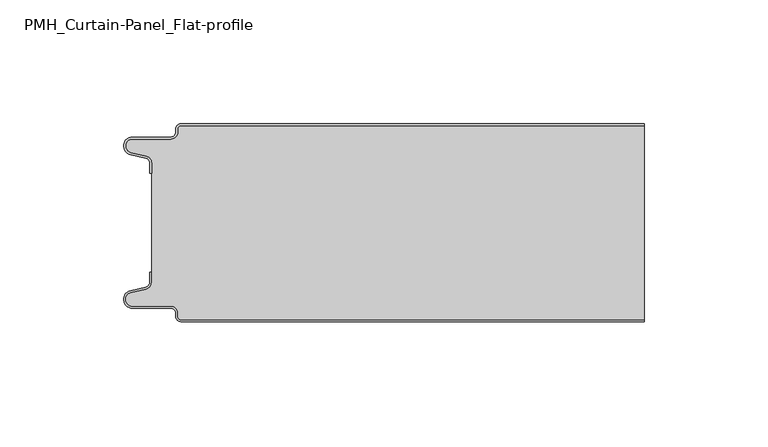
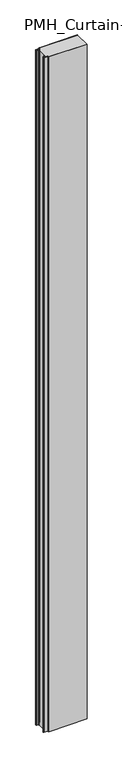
"""IFC4 building model written with IfcOpenShell, lengths in millimetres: plate geometry, PMH_Curtain-Panel_Flat-profile : ACH_PMH_Stone-wool-Panel_80M."""

from ifc_helpers import new_model, si_unit, point, frame_2d, origin, origin_with_axes, place, context, project, spatial, polyline, circle_curve, trimmed, segment, composite_curve, outline, extrude, source, transform, mapped, element, save


def pmh_curtain_panel_flat_profile_36b9df94(model_context):
    return source(origin(), model_context, "Body", "SweptSolid", [
        extrude(outline(composite_curve([segment(trimmed(circle_curve(frame_2d((-87.4, -2.0)), 1.2), [point((-87.4, -0.8))], [point((-88.6, -2.0))], True, "CARTESIAN"), True, "CONTINUOUS"), segment(polyline([(-88.6, -2.0), (-88.6, -3.4)]), True, "CONTINUOUS"), segment(trimmed(circle_curve(frame_2d((-91.4, -3.4)), 2.8), [point((-88.6, -3.4))], [point((-91.4, -6.2))], False, "CARTESIAN"), True, "CONTINUOUS"), segment(polyline([(-91.4, -6.2), (-106.9, -6.2)]), True, "CONTINUOUS"), segment(trimmed(circle_curve(frame_2d((-106.9, -9.0)), 2.8), [point((-106.9, -6.2))], [point((-107.529863, -11.7282362))], True, "CARTESIAN"), True, "CONTINUOUS"), segment(polyline([(-107.529863, -11.7282362), (-101.370137, -13.150321)]), True, "CONTINUOUS"), segment(trimmed(circle_curve(frame_2d((-102.0, -15.878557)), 2.8), [point((-101.370137, -13.150321))], [point((-99.2, -15.878557))], False, "CARTESIAN"), True, "CONTINUOUS"), segment(polyline([(-99.2, -15.878557), (-99.2, -20.0), (-100.0, -20.0), (-100.0, -15.878557)]), True, "CONTINUOUS"), segment(trimmed(circle_curve(frame_2d((-102.0, -15.878557)), 2.0), [point((-100.0, -15.878557))], [point((-101.5500978, -13.9298169))], True, "CARTESIAN"), True, "CONTINUOUS"), segment(polyline([(-101.5500978, -13.9298169), (-107.7098239, -12.507732)]), True, "CONTINUOUS"), segment(trimmed(circle_curve(frame_2d((-106.9, -9.0)), 3.6), [point((-107.7098239, -12.507732))], [point((-106.9, -5.4))], False, "CARTESIAN"), True, "CONTINUOUS"), segment(polyline([(-106.9, -5.4), (-91.4, -5.4)]), True, "CONTINUOUS"), segment(trimmed(circle_curve(frame_2d((-91.4, -3.4)), 2.0), [point((-91.4, -5.4))], [point((-89.4, -3.4))], True, "CARTESIAN"), True, "CONTINUOUS"), segment(polyline([(-89.4, -3.4), (-89.4, -2.0)]), True, "CONTINUOUS"), segment(trimmed(circle_curve(frame_2d((-87.4, -2.0)), 2.0), [point((-89.4, -2.0))], [point((-87.4, 0.0))], False, "CARTESIAN"), True, "CONTINUOUS"), segment(polyline([(-87.4, 0.0), (100.0, 0.0), (100.0, -0.8), (-87.4, -0.8)]), True, "CONTINUOUS")], self_intersect=False)), origin_with_axes(), (0.0, 0.0, 1.0), 3500.0),
        extrude(outline(composite_curve([segment(polyline([(-99.2, -64.1214426), (-99.2, -15.8785573)]), True, "CONTINUOUS"), segment(trimmed(circle_curve(frame_2d((-102.0, -15.8785573)), 2.8), [point((-99.2, -15.8785573))], [point((-101.370137, -13.1503212))], True, "CARTESIAN"), True, "CONTINUOUS"), segment(polyline([(-101.370137, -13.1503212), (-107.5298631, -11.7282362)]), True, "CONTINUOUS"), segment(trimmed(circle_curve(frame_2d((-106.9, -9.0)), 2.8), [point((-107.5298631, -11.7282362))], [point((-106.9, -6.2))], False, "CARTESIAN"), True, "CONTINUOUS"), segment(polyline([(-106.9, -6.2), (-91.4000001, -6.2)]), True, "CONTINUOUS"), segment(trimmed(circle_curve(frame_2d((-91.4000001, -3.4)), 2.8), [point((-91.4000001, -6.2))], [point((-88.6000001, -3.4))], True, "CARTESIAN"), True, "CONTINUOUS"), segment(polyline([(-88.6000001, -3.4), (-88.6000001, -2.0)]), True, "CONTINUOUS"), segment(trimmed(circle_curve(frame_2d((-87.4000001, -2.0)), 1.2), [point((-88.6000001, -2.0))], [point((-87.4000001, -0.8))], False, "CARTESIAN"), True, "CONTINUOUS"), segment(polyline([(-87.4000001, -0.8), (100.0, -0.8), (100.0, -79.2), (-87.4000001, -79.2)]), True, "CONTINUOUS"), segment(trimmed(circle_curve(frame_2d((-87.4000001, -78.0)), 1.2), [point((-87.4000001, -79.2))], [point((-88.6000001, -78.0))], False, "CARTESIAN"), True, "CONTINUOUS"), segment(polyline([(-88.6000001, -78.0), (-88.6000001, -76.6)]), True, "CONTINUOUS"), segment(trimmed(circle_curve(frame_2d((-91.4000001, -76.6)), 2.8), [point((-88.6000001, -76.6))], [point((-91.4000001, -73.8))], True, "CARTESIAN"), True, "CONTINUOUS"), segment(polyline([(-91.4000001, -73.8), (-106.9, -73.8)]), True, "CONTINUOUS"), segment(trimmed(circle_curve(frame_2d((-106.9, -71.0)), 2.8), [point((-106.9, -73.8))], [point((-107.5298631, -68.2717638))], False, "CARTESIAN"), True, "CONTINUOUS"), segment(polyline([(-107.5298631, -68.2717638), (-101.370137, -66.8496788)]), True, "CONTINUOUS"), segment(trimmed(circle_curve(frame_2d((-102.0, -64.1214426)), 2.8), [point((-101.370137, -66.8496788))], [point((-99.2, -64.1214426))], True, "CARTESIAN"), True, "CONTINUOUS")], self_intersect=False)), origin_with_axes(), (0.0, 0.0, 1.0), 3500.0),
        extrude(outline(composite_curve([segment(trimmed(circle_curve(frame_2d((-87.4, -78.0)), 2.0), [point((-87.4, -80.0))], [point((-89.4, -78.0))], False, "CARTESIAN"), True, "CONTINUOUS"), segment(polyline([(-89.4, -78.0), (-89.4, -76.6)]), True, "CONTINUOUS"), segment(trimmed(circle_curve(frame_2d((-91.4, -76.6)), 2.0), [point((-89.4, -76.6))], [point((-91.4, -74.6))], True, "CARTESIAN"), True, "CONTINUOUS"), segment(polyline([(-91.4, -74.6), (-106.9, -74.6)]), True, "CONTINUOUS"), segment(trimmed(circle_curve(frame_2d((-106.9, -71.0)), 3.6), [point((-106.9, -74.6))], [point((-107.7098239, -67.4922678))], False, "CARTESIAN"), True, "CONTINUOUS"), segment(polyline([(-107.7098239, -67.4922678), (-101.5500979, -66.070183)]), True, "CONTINUOUS"), segment(trimmed(circle_curve(frame_2d((-102.0, -64.121443)), 2.0), [point((-101.5500979, -66.070183))], [point((-100.0, -64.121443))], True, "CARTESIAN"), True, "CONTINUOUS"), segment(polyline([(-100.0, -64.121443), (-100.0, -60.0), (-99.2, -60.0), (-99.2, -64.121443)]), True, "CONTINUOUS"), segment(trimmed(circle_curve(frame_2d((-102.0, -64.121443)), 2.8), [point((-99.2, -64.121443))], [point((-101.370137, -66.8496792))], False, "CARTESIAN"), True, "CONTINUOUS"), segment(polyline([(-101.370137, -66.8496792), (-107.529863, -68.271764)]), True, "CONTINUOUS"), segment(trimmed(circle_curve(frame_2d((-106.9, -71.0)), 2.8), [point((-107.529863, -68.271764))], [point((-106.9, -73.8))], True, "CARTESIAN"), True, "CONTINUOUS"), segment(polyline([(-106.9, -73.8), (-91.4, -73.8)]), True, "CONTINUOUS"), segment(trimmed(circle_curve(frame_2d((-91.4, -76.6)), 2.8), [point((-91.4, -73.8))], [point((-88.6, -76.6))], False, "CARTESIAN"), True, "CONTINUOUS"), segment(polyline([(-88.6, -76.6), (-88.6, -78.0)]), True, "CONTINUOUS"), segment(trimmed(circle_curve(frame_2d((-87.4, -78.0)), 1.2), [point((-88.6, -78.0))], [point((-87.4, -79.2))], True, "CARTESIAN"), True, "CONTINUOUS"), segment(polyline([(-87.4, -79.2), (100.0, -79.2), (100.0, -80.0), (-87.4, -80.0)]), True, "CONTINUOUS")], self_intersect=False)), origin_with_axes(), (0.0, 0.0, 1.0), 3500.0),
    ])


if __name__ == "__main__":
    model = new_model("IFC4")
    model_context = context("Model", 3, world=origin())
    ifc_project = project(units=[si_unit("LENGTHUNIT", "METRE", prefix="MILLI")], contexts=[model_context])
    site = spatial("IfcSite", under=ifc_project)
    building = spatial("IfcBuilding", under=site)
    placement = place(None, origin())
    pmh_curtain_panel_flat_profile_shape = pmh_curtain_panel_flat_profile_36b9df94(model_context)
    element("IfcPlate", 1, ObjectType="PMH_Curtain-Panel_Flat-profile : ACH_PMH_Stone-wool-Panel_80M", at=placement, inside=building, context=model_context, shape_type="MappedRepresentation", body=[
        mapped(pmh_curtain_panel_flat_profile_shape, transform((0.0, 0.0, 0.0), x_axis=(1.0, 0.0, 0.0), y_axis=(0.0, 1.0, 0.0), z_axis=(0.0, 0.0, 1.0))),
    ])
    save(model, "model.ifc")
